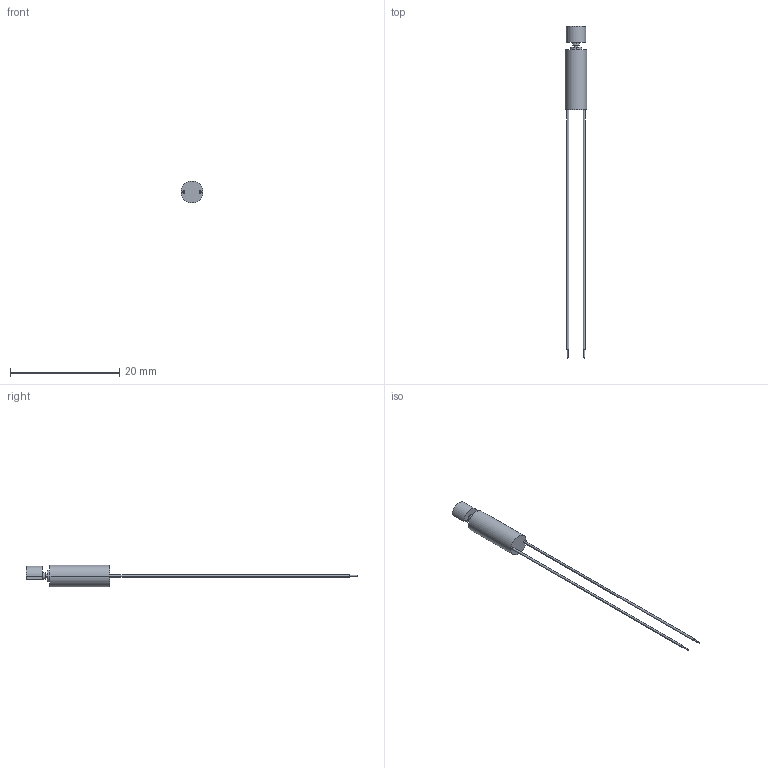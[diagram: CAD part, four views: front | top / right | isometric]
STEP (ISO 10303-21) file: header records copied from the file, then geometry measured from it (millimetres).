
FILE_DESCRIPTION((''),'2;1');
FILE_NAME('FG-Y4111930LA505B','2020-11-04T',('VM'),(''),'PRO/ENGINEER BY PARAMETRIC TECHNOLOGY CORPORATION, 2009360','PRO/ENGINEER BY PARAMETRIC TECHNOLOGY CORPORATION, 2009360','');
FILE_SCHEMA(('CONFIG_CONTROL_DESIGN'));
Length unit declared in the file: millimetre
Products named in the file (1): FG-Y4111930LA505B
Bounding box: 4 x 60.9 x 4 mm (x, y, z)
Volume: 171 mm3; surface area: 325.9 mm2
Topology: 1 solids, 1 shells, 34 faces, 72 edges, 48 vertices
Faces by surface type: cylinder 19, plane 15
Entity records: 972 total; most frequent: DIRECTION 178, CARTESIAN_POINT 154, ORIENTED_EDGE 144, AXIS2_PLACEMENT_3D 72, EDGE_CURVE 72, VERTEX_POINT 48, EDGE_LOOP 42, CIRCLE 38
